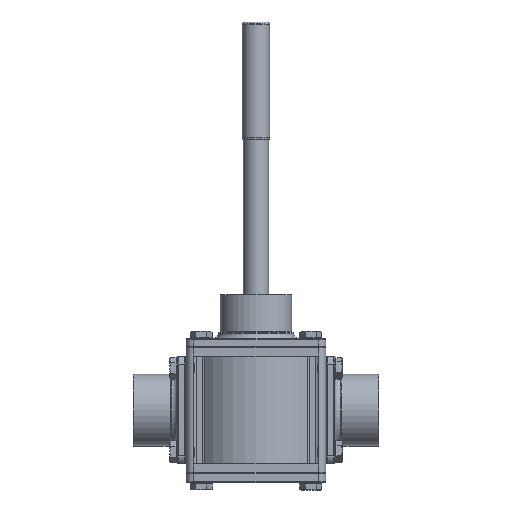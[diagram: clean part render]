
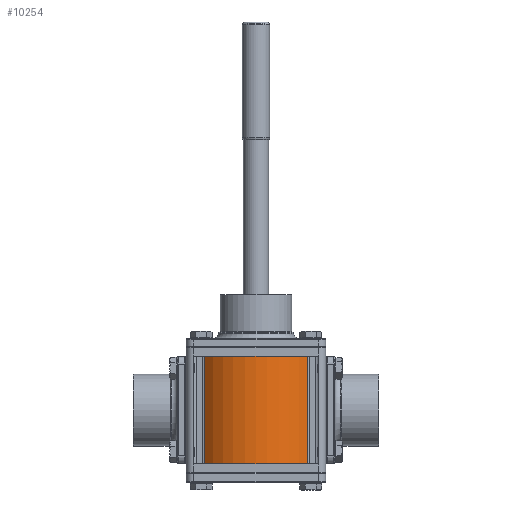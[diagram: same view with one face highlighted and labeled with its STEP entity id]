
A CAD part, front view. The second image highlights one B-rep face of the part: STEP entity #10254.
In plain terms, the highlighted cylindrical face has radius 73 mm (diameter 146 mm), a partial arc.
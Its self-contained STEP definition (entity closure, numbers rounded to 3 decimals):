
#649 = CARTESIAN_POINT ( 'NONE',  ( 54.123, -48.987, -57. ) ) ;
#1155 = EDGE_CURVE ( 'NONE', #24659, #23331, #6410, .T. ) ;
#1938 = DIRECTION ( 'NONE',  ( 0., 0., 1. ) ) ;
#5332 = DIRECTION ( 'NONE',  ( 1., 0., 0. ) ) ;
#6410 = LINE ( 'NONE', #649, #8701 ) ;
#6489 = ORIENTED_EDGE ( 'NONE', *, *, #24250, .F. ) ;
#8264 = CIRCLE ( 'NONE', #11923, 73. ) ;
#8701 = VECTOR ( 'NONE', #15590, 1000. ) ;
#10254 = ADVANCED_FACE ( 'NONE', ( #34823 ), #18930, .T. ) ;
#11520 = ORIENTED_EDGE ( 'NONE', *, *, #1155, .T. ) ;
#11923 = AXIS2_PLACEMENT_3D ( 'NONE', #18867, #36225, #16234 ) ;
#13209 = VERTEX_POINT ( 'NONE', #30575 ) ;
#14745 = DIRECTION ( 'NONE',  ( 0., 0., -1. ) ) ;
#14804 = CARTESIAN_POINT ( 'NONE',  ( 54.123, -48.987, 57. ) ) ;
#14847 = VECTOR ( 'NONE', #1938, 1000. ) ;
#15498 = CIRCLE ( 'NONE', #29448, 73. ) ;
#15590 = DIRECTION ( 'NONE',  ( 0., 0., 1. ) ) ;
#16234 = DIRECTION ( 'NONE',  ( 1., 0., 0. ) ) ;
#16891 = VERTEX_POINT ( 'NONE', #27096 ) ;
#17074 = EDGE_CURVE ( 'NONE', #23331, #13209, #15498, .T. ) ;
#17258 = DIRECTION ( 'NONE',  ( 0., 0., 1. ) ) ;
#18550 = ORIENTED_EDGE ( 'NONE', *, *, #17074, .T. ) ;
#18867 = CARTESIAN_POINT ( 'NONE',  ( 0., 0., -57. ) ) ;
#18930 = CYLINDRICAL_SURFACE ( 'NONE', #35866, 73. ) ;
#20811 = EDGE_LOOP ( 'NONE', ( #18550, #6489, #28297, #11520 ) ) ;
#21141 = EDGE_CURVE ( 'NONE', #24659, #16891, #8264, .T. ) ;
#21596 = LINE ( 'NONE', #27392, #14847 ) ;
#23331 = VERTEX_POINT ( 'NONE', #14804 ) ;
#23484 = DIRECTION ( 'NONE',  ( 1., 0., 0. ) ) ;
#24250 = EDGE_CURVE ( 'NONE', #16891, #13209, #21596, .T. ) ;
#24659 = VERTEX_POINT ( 'NONE', #29537 ) ;
#27096 = CARTESIAN_POINT ( 'NONE',  ( -54.123, -48.987, -57. ) ) ;
#27392 = CARTESIAN_POINT ( 'NONE',  ( -54.123, -48.987, -57. ) ) ;
#28297 = ORIENTED_EDGE ( 'NONE', *, *, #21141, .F. ) ;
#29448 = AXIS2_PLACEMENT_3D ( 'NONE', #35112, #14745, #23484 ) ;
#29537 = CARTESIAN_POINT ( 'NONE',  ( 54.123, -48.987, -57. ) ) ;
#30575 = CARTESIAN_POINT ( 'NONE',  ( -54.123, -48.987, 57. ) ) ;
#34201 = CARTESIAN_POINT ( 'NONE',  ( 0., 0., -57. ) ) ;
#34823 = FACE_OUTER_BOUND ( 'NONE', #20811, .T. ) ;
#35112 = CARTESIAN_POINT ( 'NONE',  ( 0., 0., 57. ) ) ;
#35866 = AXIS2_PLACEMENT_3D ( 'NONE', #34201, #17258, #5332 ) ;
#36225 = DIRECTION ( 'NONE',  ( 0., 0., -1. ) ) ;
